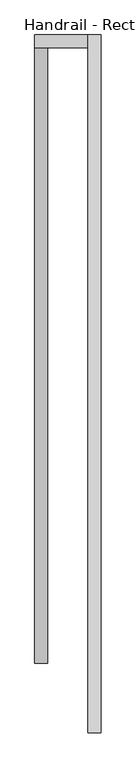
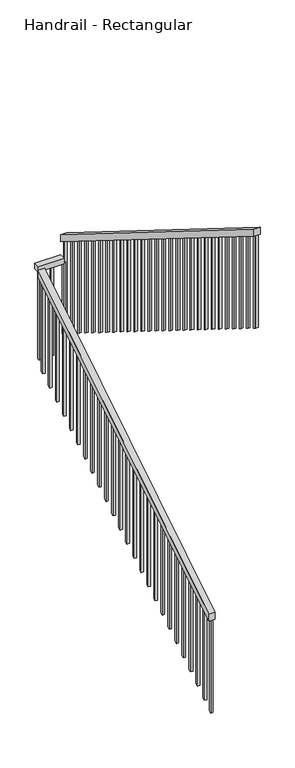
"""IFC4 building model written with IfcOpenShell, lengths in millimetres: railing geometry, Handrail - Rectangular."""

from ifc_helpers import new_model, si_unit, frame, origin, place, context, project, spatial, polyline, outline, extrude, source, transform, mapped, element, save


def handrail_rectangular_c8b49949(model_context):
    return source(origin(), model_context, "Body", "SweptSolid", [
        extrude(outline(polyline([(4381.0975872, 1028.7093152), (4381.0975872, 1088.5714286), (6844.8975872, 2624.4467532), (6844.8975872, 2564.5846399), (4381.0975872, 1028.7093152)])), frame((30176.8482386, 0.0, 0.0), z_axis=(1.0, 0.0, 0.0), x_axis=(0.0, 1.0, 0.0)), (0.0, 0.0, 1.0), 50.8),
        extrude(outline(polyline([(30176.8482386, 6844.8975872), (30176.8482386, 6895.6975872), (30391.2771094, 6895.6975872), (30391.2771094, 6844.8975872), (30176.8482386, 6844.8975872)])), frame((0.0, 0.0, 2605.3142857), z_axis=(0.0, 0.0, 1.0), x_axis=(1.0, 0.0, 0.0)), (0.0, 0.0, 1.0), 50.8),
        extrude(outline(polyline([(6895.6975872, 2830.2857143), (6895.6975872, 2770.423601), (4101.6975872, 4512.1378867), (4101.6975872, 4572.0), (6895.6975872, 2830.2857143)])), frame((30391.2771094, 0.0, 0.0), z_axis=(1.0, 0.0, 0.0), x_axis=(0.0, 1.0, 0.0)), (0.0, 0.0, 1.0), 50.8),
        extrude(outline(polyline([(4117.5725872, 4502.2417828), (4136.6225872, 4490.3664581), (4136.6225872, 3675.4099734), (4117.5725872, 3687.2852981), (4117.5725872, 4502.2417828)])), frame((30407.1521094, 0.0, 0.0), z_axis=(1.0, 0.0, 0.0), x_axis=(0.0, 1.0, 0.0)), (0.0, 0.0, 1.0), 19.05),
        extrude(outline(polyline([(4219.1725872, 4438.9067178), (4238.2225872, 4427.0313932), (4238.2225872, 3612.0749085), (4219.1725872, 3623.9502331), (4219.1725872, 4438.9067178)])), frame((30407.1521094, 0.0, 0.0), z_axis=(1.0, 0.0, 0.0), x_axis=(0.0, 1.0, 0.0)), (0.0, 0.0, 1.0), 19.05),
        extrude(outline(polyline([(4320.7725872, 4375.5716529), (4339.8225872, 4363.6963282), (4339.8225872, 3548.7398435), (4320.7725872, 3560.6151682), (4320.7725872, 4375.5716529)])), frame((30407.1521094, 0.0, 0.0), z_axis=(1.0, 0.0, 0.0), x_axis=(0.0, 1.0, 0.0)), (0.0, 0.0, 1.0), 19.05),
        extrude(outline(polyline([(4422.3725872, 4312.236588), (4441.4225872, 4300.3612633), (4441.4225872, 3485.4047786), (4422.3725872, 3497.2801033), (4422.3725872, 4312.236588)])), frame((30407.1521094, 0.0, 0.0), z_axis=(1.0, 0.0, 0.0), x_axis=(0.0, 1.0, 0.0)), (0.0, 0.0, 1.0), 19.05),
        extrude(outline(polyline([(4523.9725872, 4248.901523), (4543.0225872, 4237.0261984), (4543.0225872, 3422.0697137), (4523.9725872, 3433.9450383), (4523.9725872, 4248.901523)])), frame((30407.1521094, 0.0, 0.0), z_axis=(1.0, 0.0, 0.0), x_axis=(0.0, 1.0, 0.0)), (0.0, 0.0, 1.0), 19.05),
        extrude(outline(polyline([(4625.5725872, 4185.5664581), (4644.6225872, 4173.6911334), (4644.6225872, 3358.7346487), (4625.5725872, 3370.6099734), (4625.5725872, 4185.5664581)])), frame((30407.1521094, 0.0, 0.0), z_axis=(1.0, 0.0, 0.0), x_axis=(0.0, 1.0, 0.0)), (0.0, 0.0, 1.0), 19.05),
        extrude(outline(polyline([(4727.1725872, 4122.2313932), (4746.2225872, 4110.3560685), (4746.2225872, 3295.3995838), (4727.1725872, 3307.2749085), (4727.1725872, 4122.2313932)])), frame((30407.1521094, 0.0, 0.0), z_axis=(1.0, 0.0, 0.0), x_axis=(0.0, 1.0, 0.0)), (0.0, 0.0, 1.0), 19.05),
        extrude(outline(polyline([(4828.7725872, 4058.8963282), (4847.8225872, 4047.0210036), (4847.8225872, 3232.0645188), (4828.7725872, 3243.9398435), (4828.7725872, 4058.8963282)])), frame((30407.1521094, 0.0, 0.0), z_axis=(1.0, 0.0, 0.0), x_axis=(0.0, 1.0, 0.0)), (0.0, 0.0, 1.0), 19.05),
        extrude(outline(polyline([(4930.3725872, 3995.5612633), (4949.4225872, 3983.6859386), (4949.4225872, 3168.7294539), (4930.3725872, 3180.6047786), (4930.3725872, 3995.5612633)])), frame((30407.1521094, 0.0, 0.0), z_axis=(1.0, 0.0, 0.0), x_axis=(0.0, 1.0, 0.0)), (0.0, 0.0, 1.0), 19.05),
        extrude(outline(polyline([(5031.9725872, 3932.2261984), (5051.0225872, 3920.3508737), (5051.0225872, 3105.394389), (5031.9725872, 3117.2697137), (5031.9725872, 3932.2261984)])), frame((30407.1521094, 0.0, 0.0), z_axis=(1.0, 0.0, 0.0), x_axis=(0.0, 1.0, 0.0)), (0.0, 0.0, 1.0), 19.05),
        extrude(outline(polyline([(5133.5725872, 3868.8911334), (5152.6225872, 3857.0158087), (5152.6225872, 3042.059324), (5133.5725872, 3053.9346487), (5133.5725872, 3868.8911334)])), frame((30407.1521094, 0.0, 0.0), z_axis=(1.0, 0.0, 0.0), x_axis=(0.0, 1.0, 0.0)), (0.0, 0.0, 1.0), 19.05),
        extrude(outline(polyline([(5235.1725872, 3805.5560685), (5254.2225872, 3793.6807438), (5254.2225872, 2978.7242591), (5235.1725872, 2990.5995838), (5235.1725872, 3805.5560685)])), frame((30407.1521094, 0.0, 0.0), z_axis=(1.0, 0.0, 0.0), x_axis=(0.0, 1.0, 0.0)), (0.0, 0.0, 1.0), 19.05),
        extrude(outline(polyline([(5336.7725872, 3742.2210036), (5355.8225872, 3730.3456789), (5355.8225872, 2915.3891942), (5336.7725872, 2927.2645188), (5336.7725872, 3742.2210036)])), frame((30407.1521094, 0.0, 0.0), z_axis=(1.0, 0.0, 0.0), x_axis=(0.0, 1.0, 0.0)), (0.0, 0.0, 1.0), 19.05),
        extrude(outline(polyline([(5438.3725872, 3678.8859386), (5457.4225872, 3667.0106139), (5457.4225872, 2852.0541292), (5438.3725872, 2863.9294539), (5438.3725872, 3678.8859386)])), frame((30407.1521094, 0.0, 0.0), z_axis=(1.0, 0.0, 0.0), x_axis=(0.0, 1.0, 0.0)), (0.0, 0.0, 1.0), 19.05),
        extrude(outline(polyline([(5539.9725872, 3615.5508737), (5559.0225872, 3603.675549), (5559.0225872, 2788.7190643), (5539.9725872, 2800.594389), (5539.9725872, 3615.5508737)])), frame((30407.1521094, 0.0, 0.0), z_axis=(1.0, 0.0, 0.0), x_axis=(0.0, 1.0, 0.0)), (0.0, 0.0, 1.0), 19.05),
        extrude(outline(polyline([(5641.5725872, 3552.2158087), (5660.6225872, 3540.3404841), (5660.6225872, 2725.3839994), (5641.5725872, 2737.259324), (5641.5725872, 3552.2158087)])), frame((30407.1521094, 0.0, 0.0), z_axis=(1.0, 0.0, 0.0), x_axis=(0.0, 1.0, 0.0)), (0.0, 0.0, 1.0), 19.05),
        extrude(outline(polyline([(5743.1725872, 3488.8807438), (5762.2225872, 3477.0054191), (5762.2225872, 2662.0489344), (5743.1725872, 2673.9242591), (5743.1725872, 3488.8807438)])), frame((30407.1521094, 0.0, 0.0), z_axis=(1.0, 0.0, 0.0), x_axis=(0.0, 1.0, 0.0)), (0.0, 0.0, 1.0), 19.05),
        extrude(outline(polyline([(5844.7725872, 3425.5456789), (5863.8225872, 3413.6703542), (5863.8225872, 2598.7138695), (5844.7725872, 2610.5891942), (5844.7725872, 3425.5456789)])), frame((30407.1521094, 0.0, 0.0), z_axis=(1.0, 0.0, 0.0), x_axis=(0.0, 1.0, 0.0)), (0.0, 0.0, 1.0), 19.05),
        extrude(outline(polyline([(5946.3725872, 3362.2106139), (5965.4225872, 3350.3352893), (5965.4225872, 2535.3788046), (5946.3725872, 2547.2541292), (5946.3725872, 3362.2106139)])), frame((30407.1521094, 0.0, 0.0), z_axis=(1.0, 0.0, 0.0), x_axis=(0.0, 1.0, 0.0)), (0.0, 0.0, 1.0), 19.05),
        extrude(outline(polyline([(6047.9725872, 3298.875549), (6067.0225872, 3287.0002243), (6067.0225872, 2472.0437396), (6047.9725872, 2483.9190643), (6047.9725872, 3298.875549)])), frame((30407.1521094, 0.0, 0.0), z_axis=(1.0, 0.0, 0.0), x_axis=(0.0, 1.0, 0.0)), (0.0, 0.0, 1.0), 19.05),
        extrude(outline(polyline([(6149.5725872, 3235.5404841), (6168.6225872, 3223.6651594), (6168.6225872, 2408.7086747), (6149.5725872, 2420.5839994), (6149.5725872, 3235.5404841)])), frame((30407.1521094, 0.0, 0.0), z_axis=(1.0, 0.0, 0.0), x_axis=(0.0, 1.0, 0.0)), (0.0, 0.0, 1.0), 19.05),
        extrude(outline(polyline([(6251.1725872, 3172.2054191), (6270.2225872, 3160.3300945), (6270.2225872, 2345.3736098), (6251.1725872, 2357.2489344), (6251.1725872, 3172.2054191)])), frame((30407.1521094, 0.0, 0.0), z_axis=(1.0, 0.0, 0.0), x_axis=(0.0, 1.0, 0.0)), (0.0, 0.0, 1.0), 19.05),
        extrude(outline(polyline([(6352.7725872, 3108.8703542), (6371.8225872, 3096.9950295), (6371.8225872, 2282.0385448), (6352.7725872, 2293.9138695), (6352.7725872, 3108.8703542)])), frame((30407.1521094, 0.0, 0.0), z_axis=(1.0, 0.0, 0.0), x_axis=(0.0, 1.0, 0.0)), (0.0, 0.0, 1.0), 19.05),
        extrude(outline(polyline([(6454.3725872, 3045.5352893), (6473.4225872, 3033.6599646), (6473.4225872, 2218.7034799), (6454.3725872, 2230.5788046), (6454.3725872, 3045.5352893)])), frame((30407.1521094, 0.0, 0.0), z_axis=(1.0, 0.0, 0.0), x_axis=(0.0, 1.0, 0.0)), (0.0, 0.0, 1.0), 19.05),
        extrude(outline(polyline([(6555.9725872, 2982.2002243), (6575.0225872, 2970.3248997), (6575.0225872, 2155.368415), (6555.9725872, 2167.2437396), (6555.9725872, 2982.2002243)])), frame((30407.1521094, 0.0, 0.0), z_axis=(1.0, 0.0, 0.0), x_axis=(0.0, 1.0, 0.0)), (0.0, 0.0, 1.0), 19.05),
        extrude(outline(polyline([(6657.5725872, 2918.8651594), (6676.6225872, 2906.9898347), (6676.6225872, 2092.03335), (6657.5725872, 2103.9086747), (6657.5725872, 2918.8651594)])), frame((30407.1521094, 0.0, 0.0), z_axis=(1.0, 0.0, 0.0), x_axis=(0.0, 1.0, 0.0)), (0.0, 0.0, 1.0), 19.05),
        extrude(outline(polyline([(6759.1725872, 2855.5300945), (6778.2225872, 2843.6547698), (6778.2225872, 2028.6982851), (6759.1725872, 2040.5736098), (6759.1725872, 2855.5300945)])), frame((30407.1521094, 0.0, 0.0), z_axis=(1.0, 0.0, 0.0), x_axis=(0.0, 1.0, 0.0)), (0.0, 0.0, 1.0), 19.05),
        extrude(outline(polyline([(2605.3142857, 30414.9732386), (2605.3142857, 30395.9232386), (1965.3632201, 30395.9232386), (1977.2385448, 30414.9732386), (2605.3142857, 30414.9732386)])), frame((0.0, 6860.7725872, 0.0), z_axis=(0.0, 1.0, 0.0), x_axis=(0.0, 0.0, 1.0)), (0.0, 0.0, 1.0), 19.05),
        extrude(outline(polyline([(30294.3232386, 6860.7725872), (30294.3232386, 6879.8225872), (30313.3732386, 6879.8225872), (30313.3732386, 6860.7725872), (30294.3232386, 6860.7725872)])), frame((0.0, 0.0, 1817.9142857), z_axis=(0.0, 0.0, 1.0), x_axis=(1.0, 0.0, 0.0)), (0.0, 0.0, 1.0), 787.4),
        extrude(outline(polyline([(6809.9725872, 2542.8132113), (6829.0225872, 2554.688536), (6829.0225872, 1739.7320513), (6809.9725872, 1727.8567266), (6809.9725872, 2542.8132113)])), frame((30192.7232386, 0.0, 0.0), z_axis=(1.0, 0.0, 0.0), x_axis=(0.0, 1.0, 0.0)), (0.0, 0.0, 1.0), 19.05),
        extrude(outline(polyline([(6708.3725872, 2479.4781464), (6727.4225872, 2491.3534711), (6727.4225872, 1676.3969864), (6708.3725872, 1664.5216617), (6708.3725872, 2479.4781464)])), frame((30192.7232386, 0.0, 0.0), z_axis=(1.0, 0.0, 0.0), x_axis=(0.0, 1.0, 0.0)), (0.0, 0.0, 1.0), 19.05),
        extrude(outline(polyline([(6606.7725872, 2416.1430815), (6625.8225872, 2428.0184061), (6625.8225872, 1613.0619214), (6606.7725872, 1601.1865968), (6606.7725872, 2416.1430815)])), frame((30192.7232386, 0.0, 0.0), z_axis=(1.0, 0.0, 0.0), x_axis=(0.0, 1.0, 0.0)), (0.0, 0.0, 1.0), 19.05),
        extrude(outline(polyline([(6505.1725872, 2352.8080165), (6524.2225872, 2364.6833412), (6524.2225872, 1549.7268565), (6505.1725872, 1537.8515318), (6505.1725872, 2352.8080165)])), frame((30192.7232386, 0.0, 0.0), z_axis=(1.0, 0.0, 0.0), x_axis=(0.0, 1.0, 0.0)), (0.0, 0.0, 1.0), 19.05),
        extrude(outline(polyline([(6403.5725872, 2289.4729516), (6422.6225872, 2301.3482763), (6422.6225872, 1486.3917916), (6403.5725872, 1474.5164669), (6403.5725872, 2289.4729516)])), frame((30192.7232386, 0.0, 0.0), z_axis=(1.0, 0.0, 0.0), x_axis=(0.0, 1.0, 0.0)), (0.0, 0.0, 1.0), 19.05),
        extrude(outline(polyline([(6301.9725872, 2226.1378867), (6321.0225872, 2238.0132113), (6321.0225872, 1423.0567266), (6301.9725872, 1411.181402), (6301.9725872, 2226.1378867)])), frame((30192.7232386, 0.0, 0.0), z_axis=(1.0, 0.0, 0.0), x_axis=(0.0, 1.0, 0.0)), (0.0, 0.0, 1.0), 19.05),
        extrude(outline(polyline([(6200.3725872, 2162.8028217), (6219.4225872, 2174.6781464), (6219.4225872, 1359.7216617), (6200.3725872, 1347.846337), (6200.3725872, 2162.8028217)])), frame((30192.7232386, 0.0, 0.0), z_axis=(1.0, 0.0, 0.0), x_axis=(0.0, 1.0, 0.0)), (0.0, 0.0, 1.0), 19.05),
        extrude(outline(polyline([(6098.7725872, 2099.4677568), (6117.8225872, 2111.3430815), (6117.8225872, 1296.3865968), (6098.7725872, 1284.5112721), (6098.7725872, 2099.4677568)])), frame((30192.7232386, 0.0, 0.0), z_axis=(1.0, 0.0, 0.0), x_axis=(0.0, 1.0, 0.0)), (0.0, 0.0, 1.0), 19.05),
        extrude(outline(polyline([(5997.1725872, 2036.1326919), (6016.2225872, 2048.0080165), (6016.2225872, 1233.0515318), (5997.1725872, 1221.1762072), (5997.1725872, 2036.1326919)])), frame((30192.7232386, 0.0, 0.0), z_axis=(1.0, 0.0, 0.0), x_axis=(0.0, 1.0, 0.0)), (0.0, 0.0, 1.0), 19.05),
        extrude(outline(polyline([(5895.5725872, 1972.7976269), (5914.6225872, 1984.6729516), (5914.6225872, 1169.7164669), (5895.5725872, 1157.8411422), (5895.5725872, 1972.7976269)])), frame((30192.7232386, 0.0, 0.0), z_axis=(1.0, 0.0, 0.0), x_axis=(0.0, 1.0, 0.0)), (0.0, 0.0, 1.0), 19.05),
        extrude(outline(polyline([(5793.9725872, 1909.462562), (5813.0225872, 1921.3378867), (5813.0225872, 1106.381402), (5793.9725872, 1094.5060773), (5793.9725872, 1909.462562)])), frame((30192.7232386, 0.0, 0.0), z_axis=(1.0, 0.0, 0.0), x_axis=(0.0, 1.0, 0.0)), (0.0, 0.0, 1.0), 19.05),
        extrude(outline(polyline([(5692.3725872, 1846.1274971), (5711.4225872, 1858.0028217), (5711.4225872, 1043.046337), (5692.3725872, 1031.1710124), (5692.3725872, 1846.1274971)])), frame((30192.7232386, 0.0, 0.0), z_axis=(1.0, 0.0, 0.0), x_axis=(0.0, 1.0, 0.0)), (0.0, 0.0, 1.0), 19.05),
        extrude(outline(polyline([(5590.7725872, 1782.7924321), (5609.8225872, 1794.6677568), (5609.8225872, 979.7112721), (5590.7725872, 967.8359474), (5590.7725872, 1782.7924321)])), frame((30192.7232386, 0.0, 0.0), z_axis=(1.0, 0.0, 0.0), x_axis=(0.0, 1.0, 0.0)), (0.0, 0.0, 1.0), 19.05),
        extrude(outline(polyline([(5489.1725872, 1719.4573672), (5508.2225872, 1731.3326919), (5508.2225872, 916.3762072), (5489.1725872, 904.5008825), (5489.1725872, 1719.4573672)])), frame((30192.7232386, 0.0, 0.0), z_axis=(1.0, 0.0, 0.0), x_axis=(0.0, 1.0, 0.0)), (0.0, 0.0, 1.0), 19.05),
        extrude(outline(polyline([(5387.5725872, 1656.1223023), (5406.6225872, 1667.9976269), (5406.6225872, 853.0411422), (5387.5725872, 841.1658175), (5387.5725872, 1656.1223023)])), frame((30192.7232386, 0.0, 0.0), z_axis=(1.0, 0.0, 0.0), x_axis=(0.0, 1.0, 0.0)), (0.0, 0.0, 1.0), 19.05),
        extrude(outline(polyline([(5285.9725872, 1592.7872373), (5305.0225872, 1604.662562), (5305.0225872, 789.7060773), (5285.9725872, 777.8307526), (5285.9725872, 1592.7872373)])), frame((30192.7232386, 0.0, 0.0), z_axis=(1.0, 0.0, 0.0), x_axis=(0.0, 1.0, 0.0)), (0.0, 0.0, 1.0), 19.05),
        extrude(outline(polyline([(5184.3725872, 1529.4521724), (5203.4225872, 1541.3274971), (5203.4225872, 726.3710124), (5184.3725872, 714.4956877), (5184.3725872, 1529.4521724)])), frame((30192.7232386, 0.0, 0.0), z_axis=(1.0, 0.0, 0.0), x_axis=(0.0, 1.0, 0.0)), (0.0, 0.0, 1.0), 19.05),
        extrude(outline(polyline([(5082.7725872, 1466.1171074), (5101.8225872, 1477.9924321), (5101.8225872, 663.0359474), (5082.7725872, 651.1606227), (5082.7725872, 1466.1171074)])), frame((30192.7232386, 0.0, 0.0), z_axis=(1.0, 0.0, 0.0), x_axis=(0.0, 1.0, 0.0)), (0.0, 0.0, 1.0), 19.05),
        extrude(outline(polyline([(4981.1725872, 1402.7820425), (5000.2225872, 1414.6573672), (5000.2225872, 599.7008825), (4981.1725872, 587.8255578), (4981.1725872, 1402.7820425)])), frame((30192.7232386, 0.0, 0.0), z_axis=(1.0, 0.0, 0.0), x_axis=(0.0, 1.0, 0.0)), (0.0, 0.0, 1.0), 19.05),
        extrude(outline(polyline([(4879.5725872, 1339.4469776), (4898.6225872, 1351.3223023), (4898.6225872, 536.3658175), (4879.5725872, 524.4904929), (4879.5725872, 1339.4469776)])), frame((30192.7232386, 0.0, 0.0), z_axis=(1.0, 0.0, 0.0), x_axis=(0.0, 1.0, 0.0)), (0.0, 0.0, 1.0), 19.05),
        extrude(outline(polyline([(4777.9725872, 1276.1119126), (4797.0225872, 1287.9872373), (4797.0225872, 473.0307526), (4777.9725872, 461.1554279), (4777.9725872, 1276.1119126)])), frame((30192.7232386, 0.0, 0.0), z_axis=(1.0, 0.0, 0.0), x_axis=(0.0, 1.0, 0.0)), (0.0, 0.0, 1.0), 19.05),
        extrude(outline(polyline([(4676.3725872, 1212.7768477), (4695.4225872, 1224.6521724), (4695.4225872, 409.6956877), (4676.3725872, 397.820363), (4676.3725872, 1212.7768477)])), frame((30192.7232386, 0.0, 0.0), z_axis=(1.0, 0.0, 0.0), x_axis=(0.0, 1.0, 0.0)), (0.0, 0.0, 1.0), 19.05),
        extrude(outline(polyline([(4574.7725872, 1149.4417828), (4593.8225872, 1161.3171074), (4593.8225872, 346.3606227), (4574.7725872, 334.4852981), (4574.7725872, 1149.4417828)])), frame((30192.7232386, 0.0, 0.0), z_axis=(1.0, 0.0, 0.0), x_axis=(0.0, 1.0, 0.0)), (0.0, 0.0, 1.0), 19.05),
        extrude(outline(polyline([(4473.1725872, 1086.1067178), (4492.2225872, 1097.9820425), (4492.2225872, 283.0255578), (4473.1725872, 271.1502331), (4473.1725872, 1086.1067178)])), frame((30192.7232386, 0.0, 0.0), z_axis=(1.0, 0.0, 0.0), x_axis=(0.0, 1.0, 0.0)), (0.0, 0.0, 1.0), 19.05),
        extrude(outline(polyline([(6860.7725872, 2792.1950295), (6879.8225872, 2780.3197048), (6879.8225872, 1965.3632201), (6860.7725872, 1977.2385448), (6860.7725872, 2792.1950295)])), frame((30407.1521094, 0.0, 0.0), z_axis=(1.0, 0.0, 0.0), x_axis=(0.0, 1.0, 0.0)), (0.0, 0.0, 1.0), 19.05),
        extrude(outline(polyline([(30192.7232386, 6860.7725872), (30192.7232386, 6879.8225872), (30211.7732386, 6879.8225872), (30211.7732386, 6860.7725872), (30192.7232386, 6860.7725872)])), frame((0.0, 0.0, 1817.9142857), z_axis=(0.0, 0.0, 1.0), x_axis=(1.0, 0.0, 0.0)), (0.0, 0.0, 1.0), 787.4),
        extrude(outline(polyline([(4101.6975872, 4512.1378867), (4120.7475872, 4500.262562), (4120.7475872, 3685.3060773), (4101.6975872, 3697.181402), (4101.6975872, 4512.1378867)])), frame((30407.1521094, 0.0, 0.0), z_axis=(1.0, 0.0, 0.0), x_axis=(0.0, 1.0, 0.0)), (0.0, 0.0, 1.0), 19.05),
        extrude(outline(polyline([(4381.0975872, 1028.7093152), (4400.1475872, 1040.5846399), (4400.1475872, 225.6281552), (4381.0975872, 213.7528305), (4381.0975872, 1028.7093152)])), frame((30192.7232386, 0.0, 0.0), z_axis=(1.0, 0.0, 0.0), x_axis=(0.0, 1.0, 0.0)), (0.0, 0.0, 1.0), 19.05),
    ])


if __name__ == "__main__":
    model = new_model("IFC4")
    model_context = context("Model", 3, world=origin())
    ifc_project = project(units=[si_unit("LENGTHUNIT", "METRE", prefix="MILLI")], contexts=[model_context])
    site = spatial("IfcSite", under=ifc_project)
    building = spatial("IfcBuilding", under=site)
    placement = place(None, origin())
    handrail_rectangular_shape = handrail_rectangular_c8b49949(model_context)
    element("IfcRailing", 1, ObjectType="Handrail - Rectangular", at=placement, inside=building, context=model_context, shape_type="MappedRepresentation", body=[
        mapped(handrail_rectangular_shape, transform((0.0, 0.0, 0.0), x_axis=(1.0, 0.0, 0.0), y_axis=(0.0, 1.0, 0.0), z_axis=(0.0, 0.0, 1.0))),
    ])
    save(model, "model.ifc")
